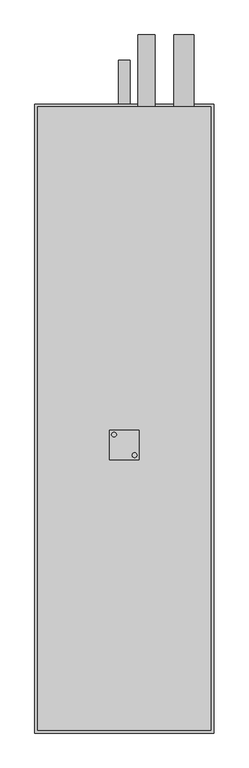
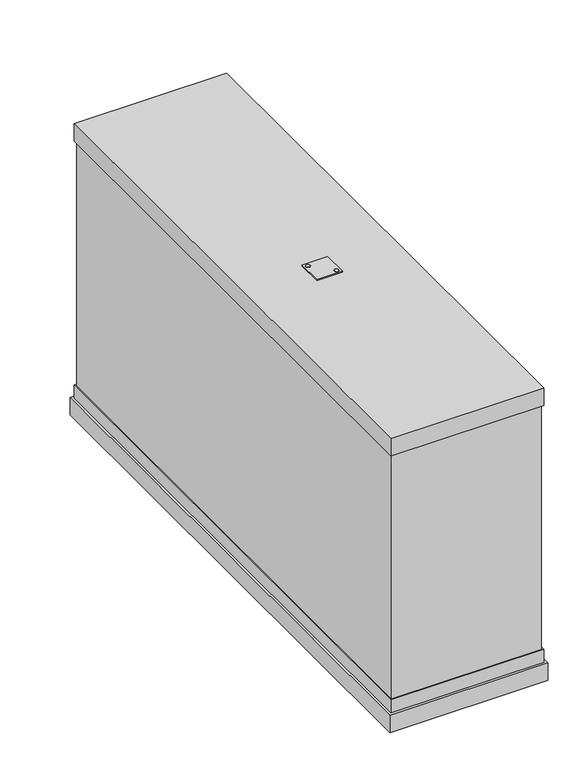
"""IFC4 building model written with IfcOpenShell, lengths in millimetres: proxy geometry, KORF_Воздухоохладитель_Фреоновый_FLO_Правый : FLO 90-50."""

from ifc_helpers import new_model, si_unit, point, frame, frame_2d, origin, place, context, project, spatial, polyline, circle_curve, trimmed, segment, composite_curve, outline, extrude, faceted_brep, source, transform, mapped, element, save


def mechanical_equipment_e1f1da10(model_context):
    return source(origin(), model_context, "Body", "SolidModel", [
        extrude(outline(composite_curve([segment(trimmed(circle_curve(frame_2d((170.5727066, -17.5745746)), 4.0), [point((174.5727066, -17.5745746))], [point((166.5727066, -17.5745746))], False, "CARTESIAN"), True, "CONTINUOUS"), segment(trimmed(circle_curve(frame_2d((170.5727066, -17.5745746)), 4.0), [point((166.5727066, -17.5745746))], [point((174.5727066, -17.5745746))], False, "CARTESIAN"), True, "CONTINUOUS")], self_intersect=False)), frame((0.0, 0.0, 286.0), z_axis=(0.0, 0.0, 1.0), x_axis=(1.0, 0.0, 0.0)), (0.0, 0.0, 1.0), 2.0),
        extrude(outline(composite_curve([segment(trimmed(circle_curve(frame_2d((135.4272934, 17.5745746)), 4.0), [point((131.4272934, 17.5745746))], [point((139.4272934, 17.5745746))], False, "CARTESIAN"), True, "CONTINUOUS"), segment(trimmed(circle_curve(frame_2d((135.4272934, 17.5745746)), 4.0), [point((139.4272934, 17.5745746))], [point((131.4272934, 17.5745746))], False, "CARTESIAN"), True, "CONTINUOUS")], self_intersect=False)), frame((0.0, 0.0, 286.0), z_axis=(0.0, 0.0, 1.0), x_axis=(1.0, 0.0, 0.0)), (0.0, 0.0, 1.0), 2.0),
        extrude(outline(polyline([(128.0, -25.0), (128.0, 25.0), (178.0, 25.0), (178.0, -25.0), (128.0, -25.0)]), holes=[composite_curve([segment(trimmed(circle_curve(frame_2d((170.5727066, -17.5745746)), 4.0), [point((174.5727066, -17.5745746))], [point((166.5727066, -17.5745746))], True, "CARTESIAN"), True, "CONTINUOUS"), segment(trimmed(circle_curve(frame_2d((170.5727066, -17.5745746)), 4.0), [point((166.5727066, -17.5745746))], [point((174.5727066, -17.5745746))], True, "CARTESIAN"), True, "CONTINUOUS")], self_intersect=False), composite_curve([segment(trimmed(circle_curve(frame_2d((135.4272934, 17.5745746)), 4.0), [point((131.4272934, 17.5745746))], [point((139.4272934, 17.5745746))], True, "CARTESIAN"), True, "CONTINUOUS"), segment(trimmed(circle_curve(frame_2d((135.4272934, 17.5745746)), 4.0), [point((139.4272934, 17.5745746))], [point((131.4272934, 17.5745746))], True, "CARTESIAN"), True, "CONTINUOUS")], self_intersect=False)]), frame((0.0, 0.0, 286.0), z_axis=(0.0, 0.0, 1.0), x_axis=(1.0, 0.0, 0.0)), (0.0, 0.0, 1.0), 2.0),
        faceted_brep([(306.0, -492.0, -276.0), (306.0, -492.0, -312.0), (306.0, 582.0, -312.0), (306.0, 582.0, -276.0), (0.0, -492.0, -276.0), (0.0, 582.0, -276.0), (0.0, 582.0, -312.0), (0.0, -492.0, -312.0), (301.0, 577.0, -276.0), (301.0, -487.0, -276.0), (5.0, -487.0, -276.0), (5.0, 577.0, -276.0), (298.0, -484.0, 250.0), (298.0, -484.0, -250.0), (298.0, -450.0, -250.0), (298.0, 450.0, -250.0), (298.0, 574.0, -250.0), (298.0, 574.0, 250.0), (298.0, 450.0, 250.0), (298.0, -450.0, 250.0), (8.0, 574.0, 250.0), (8.0, 574.0, -250.0), (8.0, 450.0, -250.0), (8.0, -450.0, -250.0), (8.0, -484.0, -250.0), (8.0, -484.0, 250.0), (8.0, -450.0, 250.0), (8.0, 450.0, 250.0), (301.0, -487.0, 250.0), (301.0, 577.0, 250.0), (301.0, 577.0, 286.0), (301.0, -487.0, 286.0), (301.0, -487.0, -250.0), (301.0, 577.0, -250.0), (5.0, -487.0, 250.0), (5.0, -487.0, 286.0), (5.0, 577.0, 286.0), (5.0, 577.0, 250.0), (5.0, -487.0, -250.0), (5.0, 577.0, -250.0)], [[[0, 1, 2, 3]], [[4, 5, 6, 7]], [[1, 0, 4, 7]], [[2, 1, 7, 6]], [[3, 2, 6, 5]], [[0, 3, 5, 4], [8, 9, 10, 11]], [[12, 13, 14, 15, 16, 17, 18, 19]], [[20, 21, 22, 23, 24, 25, 26, 27]], [[13, 12, 25, 24]], [[17, 16, 21, 20]], [[28, 29, 30, 31]], [[32, 9, 8, 33]], [[34, 35, 36, 37]], [[38, 39, 11, 10]], [[29, 28, 34, 37], [12, 19, 18, 17, 20, 27, 26, 25]], [[30, 29, 37, 36]], [[31, 30, 36, 35]], [[28, 31, 35, 34]], [[9, 32, 38, 10]], [[33, 8, 11, 39]], [[32, 33, 39, 38], [14, 13, 24, 23, 22, 21, 16, 15]]]),
        extrude(outline(composite_curve([segment(trimmed(circle_curve(frame_2d((-199.0, 255.0)), 17.46), [point((-199.0, 237.54))], [point((-199.0, 272.46))], False, "CARTESIAN"), True, "CONTINUOUS"), segment(trimmed(circle_curve(frame_2d((-199.0, 255.0)), 17.46), [point((-199.0, 272.46))], [point((-199.0, 237.54))], False, "CARTESIAN"), True, "CONTINUOUS")], self_intersect=False)), frame((0.0, 574.0, 0.0), z_axis=(0.0, 1.0, 0.0), x_axis=(0.0, 0.0, 1.0)), (0.0, 0.0, 1.0), 126.0),
        extrude(outline(composite_curve([segment(trimmed(circle_curve(frame_2d((121.0, 191.0)), 14.285), [point((121.0, 176.715))], [point((121.0, 205.285))], False, "CARTESIAN"), True, "CONTINUOUS"), segment(trimmed(circle_curve(frame_2d((121.0, 191.0)), 14.285), [point((121.0, 205.285))], [point((121.0, 176.715))], False, "CARTESIAN"), True, "CONTINUOUS")], self_intersect=False)), frame((0.0, 574.0, 0.0), z_axis=(0.0, 1.0, 0.0), x_axis=(0.0, 0.0, 1.0)), (0.0, 0.0, 1.0), 126.0),
        extrude(outline(composite_curve([segment(trimmed(circle_curve(frame_2d((-294.0, 153.0)), 10.0), [point((-294.0, 143.0))], [point((-294.0, 163.0))], False, "CARTESIAN"), True, "CONTINUOUS"), segment(trimmed(circle_curve(frame_2d((-294.0, 153.0)), 10.0), [point((-294.0, 163.0))], [point((-294.0, 143.0))], False, "CARTESIAN"), True, "CONTINUOUS")], self_intersect=False)), frame((0.0, 582.0, 0.0), z_axis=(0.0, 1.0, 0.0), x_axis=(0.0, 0.0, 1.0)), (0.0, 0.0, 1.0), 75.0),
    ])


if __name__ == "__main__":
    model = new_model("IFC4")
    model_context = context("Model", 3, world=origin())
    ifc_project = project(units=[si_unit("LENGTHUNIT", "METRE", prefix="MILLI")], contexts=[model_context])
    site = spatial("IfcSite", under=ifc_project)
    building = spatial("IfcBuilding", under=site)
    placement = place(None, origin())
    mechanical_equipment_shape = mechanical_equipment_e1f1da10(model_context)
    element("IfcBuildingElementProxy", 1, Name="KORF_Воздухоохладитель_Фреоновый_FLO_Правый : FLO 90-50", ObjectType="KORF_Воздухоохладитель_Фреоновый_FLO_Правый : FLO 90-50", at=placement, inside=building, context=model_context, shape_type="MappedRepresentation", body=[
        mapped(mechanical_equipment_shape, transform((0.0, 0.0, 0.0), x_axis=(1.0, 0.0, 0.0), y_axis=(0.0, 1.0, 0.0), z_axis=(0.0, 0.0, 1.0))),
    ])
    save(model, "model.ifc")
